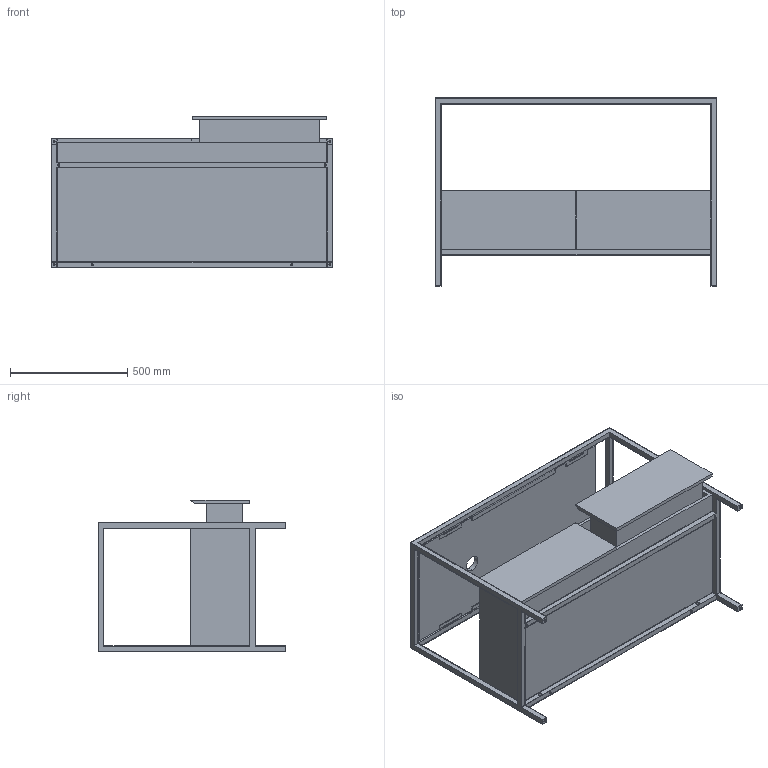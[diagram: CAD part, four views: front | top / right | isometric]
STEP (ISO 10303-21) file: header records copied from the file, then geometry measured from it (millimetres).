
FILE_DESCRIPTION (( 'STEP AP203' ), '1' );
FILE_NAME ('STA 120 04.STEP', '2019-02-04T13:33:15', ( '' ), ( '' ), 'SwSTEP 2.0', 'SolidWorks 2019', '' );
FILE_SCHEMA (( 'CONFIG_CONTROL_DESIGN' ));
Length unit declared in the file: millimetre
Products named in the file (6): STA 120 04; CASSETTO 57,5; SCOCCA STAND 120; PIANO MISURA 1070X495 1f decnt; assieme CASSETTONE 120; struttura STAND 120
Assembly tree (6 placements, depth 3):
  STA 120 04
    struttura STAND 120
    assieme CASSETTONE 120
      SCOCCA STAND 120
      CASSETTO 57,5  x2
    PIANO MISURA 1070X495 1f decnt
Bounding box: 1200 x 800 x 645.03 mm (x, y, z)
Volume: 49619320.3 mm3; surface area: 9340057.6 mm2
Topology: 5 solids, 5 shells, 226 faces, 602 edges, 372 vertices
Faces by surface type: plane 164, cylinder 54, sphere 8
Entity records: 7192 total; most frequent: CARTESIAN_POINT 1127, ORIENTED_EDGE 1116, DIRECTION 1108, EDGE_CURVE 558, VECTOR 450, LINE 450, VERTEX_POINT 348, AXIS2_PLACEMENT_3D 329
